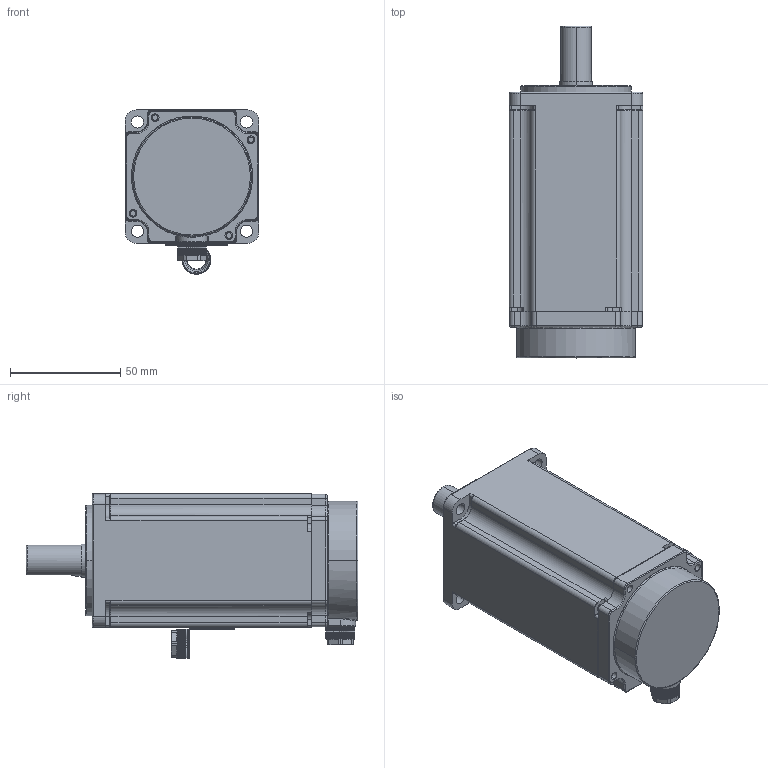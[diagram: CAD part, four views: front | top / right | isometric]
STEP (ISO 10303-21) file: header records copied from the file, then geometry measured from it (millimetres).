
FILE_DESCRIPTION((''),'2;1');
FILE_NAME('60X6-400W','2022-07-22T',('maxiaochen'),(''),'PRO/ENGINEER BY PARAMETRIC TECHNOLOGY CORPORATION, 2008380','PRO/ENGINEER BY PARAMETRIC TECHNOLOGY CORPORATION, 2008380','');
FILE_SCHEMA(('CONFIG_CONTROL_DESIGN'));
Length unit declared in the file: millimetre
Products named in the file (1): 60X6-400W
Bounding box: 60.5 x 150.5 x 74.5 mm (x, y, z)
Volume: 229653.4 mm3; surface area: 104340.3 mm2
Topology: 5 solids, 21 shells, 2078 faces, 4975 edges, 3001 vertices
Faces by surface type: plane 1262, cylinder 570, cone 120, torus 99, sphere 26, bspline 1
Entity records: 59886 total; most frequent: DIRECTION 10909, CARTESIAN_POINT 10426, ORIENTED_EDGE 9942, EDGE_CURVE 4971, AXIS2_PLACEMENT_3D 3904, VECTOR 3101, LINE 3101, VERTEX_POINT 3001
